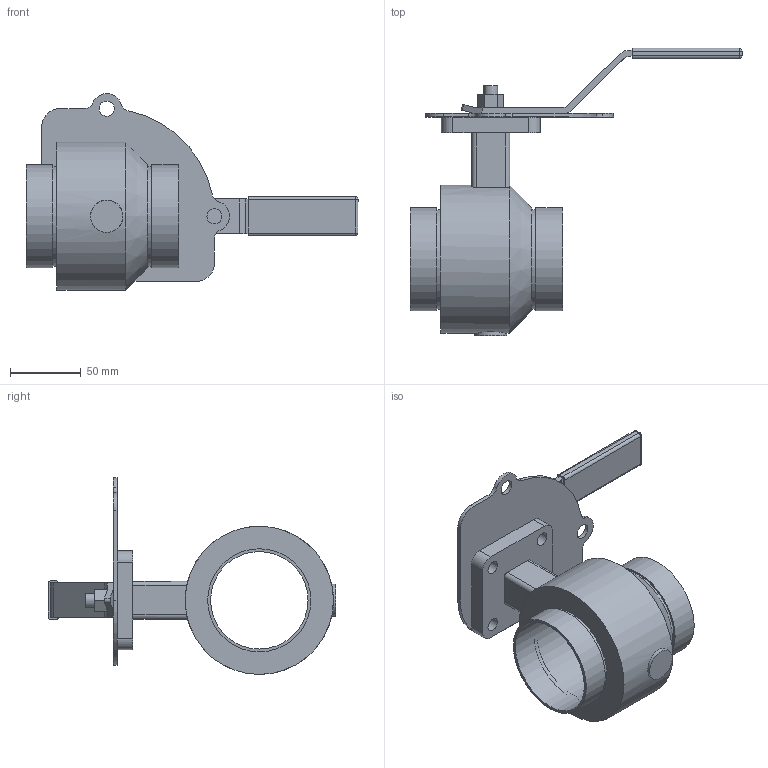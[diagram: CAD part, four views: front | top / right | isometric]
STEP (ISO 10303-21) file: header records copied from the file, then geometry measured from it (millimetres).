
FILE_DESCRIPTION(/* description */ ('VIC STRENGTHIN 300 MASTERSEAL BUTTERFLY VALVE E461 w/LH','CAx-IF Rec.Pracs.---Representation and Presentation of Product Manufacturing Information (PMI)---4.0---2014-10-13'),/* implementation_level */ '2;1');
FILE_NAME(/* name */ 'C:\Users\Vjadhav\AppData\Roaming\Autodesk\ApplicationPlugins\Back Up\Victaulic_SS-StrengThin 100_Valve Butterfly Lever Handle_Series E461 (ST1)\Victaulic_SS-StrengThin 100_Valve Butterfly Lever Handle_2.5 (65).stp',/* time_stamp */ '2020-07-07T16:33:42+05:00',/* author */ ('jbrannon'),/* organization */ ('Victaulic'),/* preprocessor_version */ 'ST-DEVELOPER v17.2',/* originating_system */ 'Autodesk Inventor 2019',/* authorisation */ '');
FILE_SCHEMA (('AP242_MANAGED_MODEL_BASED_3D_ENGINEERING_MIM_LF { 1 0 10303 442 1 1 4 }'));
Length unit declared in the file: inch
Products named in the file (4): E461-02.5; E461-02.5_1; E461-02.0; E461-02.0_1
Assembly tree (3 placements, depth 2):
  E461-02.5
    E461-02.5_1
    E461-02.0
    E461-02.0_1
Bounding box: 234.94 x 203.46 x 139.31 mm (x, y, z)
Volume: 433005.8 mm3; surface area: 120789.1 mm2
Topology: 3 solids, 3 shells, 107 faces, 273 edges, 181 vertices
Faces by surface type: cylinder 52, plane 50, sphere 4, cone 1
Full cylindrical faces by diameter (mm): 9.652 x10, 10.668 x2, 18.288 x1, 22.86 x1, 54.102 x1, 68.986 x1, 70.358 x2, 73.025 x2, 104.902 x1
Entity records: 3675 total; most frequent: CARTESIAN_POINT 639, DIRECTION 609, ORIENTED_EDGE 546, EDGE_CURVE 273, AXIS2_PLACEMENT_3D 229, VERTEX_POINT 181, LINE 151, VECTOR 151
